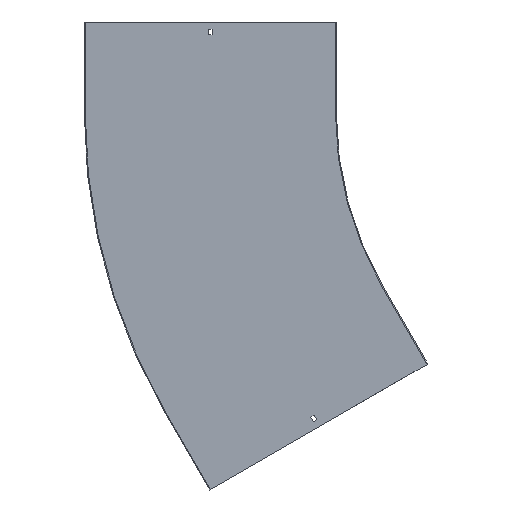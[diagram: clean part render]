
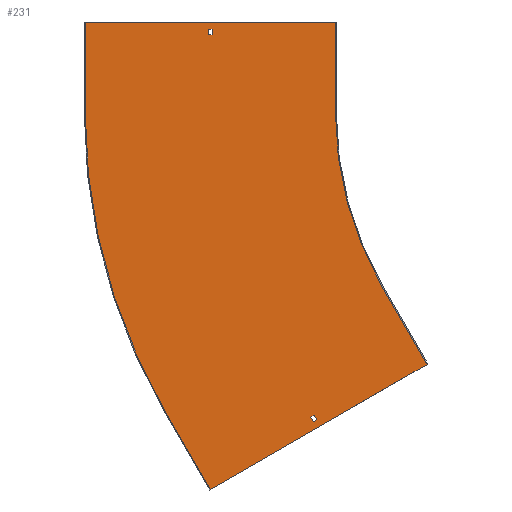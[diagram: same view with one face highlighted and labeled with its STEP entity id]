
A CAD part, front view. The second image highlights one B-rep face of the part: STEP entity #231.
In plain terms, the highlighted planar face has unit normal (0, -1, 0).
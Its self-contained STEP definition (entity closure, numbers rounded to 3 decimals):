
#1 = DIRECTION ( 'NONE',  ( 0., 0., -1. ) ) ;
#7 = LINE ( 'NONE', #609, #208 ) ;
#9 = ORIENTED_EDGE ( 'NONE', *, *, #75, .T. ) ;
#11 = DIRECTION ( 'NONE',  ( 0., 0., -1. ) ) ;
#18 = VECTOR ( 'NONE', #435, 1000. ) ;
#26 = CARTESIAN_POINT ( 'NONE',  ( -625.506, -1.5, -510.092 ) ) ;
#29 = VECTOR ( 'NONE', #811, 1000. ) ;
#33 = CARTESIAN_POINT ( 'NONE',  ( -690.006, -1.5, -398.375 ) ) ;
#61 = VERTEX_POINT ( 'NONE', #87 ) ;
#70 = DIRECTION ( 'NONE',  ( 0., 0., 1. ) ) ;
#72 = VECTOR ( 'NONE', #103, 1000. ) ;
#75 = EDGE_CURVE ( 'NONE', #781, #389, #265, .T. ) ;
#81 = CARTESIAN_POINT ( 'NONE',  ( -1010., -1.5, 0. ) ) ;
#87 = CARTESIAN_POINT ( 'NONE',  ( -874.686, -1.5, -505. ) ) ;
#88 = VECTOR ( 'NONE', #247, 1000. ) ;
#95 = VERTEX_POINT ( 'NONE', #354 ) ;
#97 = CARTESIAN_POINT ( 'NONE',  ( -631.135, -1.5, -513.342 ) ) ;
#98 = CIRCLE ( 'NONE', #583, 590. ) ;
#103 = DIRECTION ( 'NONE',  ( 0.5, 0., -0.866 ) ) ;
#104 = ORIENTED_EDGE ( 'NONE', *, *, #395, .F. ) ;
#107 = EDGE_CURVE ( 'NONE', #656, #573, #498, .T. ) ;
#114 = CARTESIAN_POINT ( 'NONE',  ( 0., -1.5, 0. ) ) ;
#117 = ORIENTED_EDGE ( 'NONE', *, *, #363, .F. ) ;
#120 = ORIENTED_EDGE ( 'NONE', *, *, #182, .F. ) ;
#122 = ORIENTED_EDGE ( 'NONE', *, *, #730, .F. ) ;
#127 = EDGE_CURVE ( 'NONE', #573, #781, #158, .T. ) ;
#155 = AXIS2_PLACEMENT_3D ( 'NONE', #114, #314, #714 ) ;
#158 = LINE ( 'NONE', #627, #833 ) ;
#166 = CARTESIAN_POINT ( 'NONE',  ( -626.635, -1.5, -521.137 ) ) ;
#167 = DIRECTION ( 'NONE',  ( -1., 0., 0. ) ) ;
#172 = ORIENTED_EDGE ( 'NONE', *, *, #710, .F. ) ;
#174 = CARTESIAN_POINT ( 'NONE',  ( -434.656, -1.5, -424.154 ) ) ;
#176 = VERTEX_POINT ( 'NONE', #97 ) ;
#178 = VECTOR ( 'NONE', #793, 1000. ) ;
#181 = EDGE_CURVE ( 'NONE', #240, #202, #501, .T. ) ;
#182 = EDGE_CURVE ( 'NONE', #838, #95, #563, .T. ) ;
#202 = VERTEX_POINT ( 'NONE', #26 ) ;
#205 = EDGE_LOOP ( 'NONE', ( #574, #239, #771, #104 ) ) ;
#208 = VECTOR ( 'NONE', #806, 1000. ) ;
#219 = VECTOR ( 'NONE', #297, 1000. ) ;
#226 = CARTESIAN_POINT ( 'NONE',  ( -1010., -1.5, 150. ) ) ;
#228 = CARTESIAN_POINT ( 'NONE',  ( -510.955, -1.5, -295. ) ) ;
#231 = ADVANCED_FACE ( 'NONE', ( #454, #253, #450 ), #396, .T. ) ;
#239 = ORIENTED_EDGE ( 'NONE', *, *, #843, .F. ) ;
#240 = VERTEX_POINT ( 'NONE', #567 ) ;
#247 = DIRECTION ( 'NONE',  ( -0.866, 0., -0.5 ) ) ;
#253 = FACE_OUTER_BOUND ( 'NONE', #455, .T. ) ;
#261 = VERTEX_POINT ( 'NONE', #384 ) ;
#262 = CARTESIAN_POINT ( 'NONE',  ( -510.955, -1.5, -295. ) ) ;
#265 = LINE ( 'NONE', #536, #276 ) ;
#266 = ORIENTED_EDGE ( 'NONE', *, *, #611, .F. ) ;
#268 = LINE ( 'NONE', #368, #601 ) ;
#276 = VECTOR ( 'NONE', #817, 1000. ) ;
#292 = LINE ( 'NONE', #492, #780 ) ;
#297 = DIRECTION ( 'NONE',  ( 0.5, 0., -0.866 ) ) ;
#304 = DIRECTION ( 'NONE',  ( 1., 0., 0. ) ) ;
#307 = EDGE_CURVE ( 'NONE', #389, #656, #768, .T. ) ;
#312 = ORIENTED_EDGE ( 'NONE', *, *, #803, .F. ) ;
#313 = CARTESIAN_POINT ( 'NONE',  ( -590., -1.5, 0. ) ) ;
#314 = DIRECTION ( 'NONE',  ( 0., -1., 0. ) ) ;
#319 = CARTESIAN_POINT ( 'NONE',  ( -796.75, -1.5, 129. ) ) ;
#354 = CARTESIAN_POINT ( 'NONE',  ( -435.955, -1.5, -424.904 ) ) ;
#363 = EDGE_CURVE ( 'NONE', #593, #648, #662, .T. ) ;
#368 = CARTESIAN_POINT ( 'NONE',  ( 69., -1.5, -119.512 ) ) ;
#384 = CARTESIAN_POINT ( 'NONE',  ( -799.686, -1.5, -634.904 ) ) ;
#387 = LINE ( 'NONE', #174, #88 ) ;
#389 = VERTEX_POINT ( 'NONE', #471 ) ;
#395 = EDGE_CURVE ( 'NONE', #202, #176, #404, .T. ) ;
#396 = PLANE ( 'NONE',  #155 ) ;
#404 = LINE ( 'NONE', #410, #178 ) ;
#410 = CARTESIAN_POINT ( 'NONE',  ( 64.5, -1.5, -111.717 ) ) ;
#414 = DIRECTION ( 'NONE',  ( 0., 1., 0. ) ) ;
#417 = LINE ( 'NONE', #810, #219 ) ;
#430 = DIRECTION ( 'NONE',  ( -0.5, 0., 0.866 ) ) ;
#435 = DIRECTION ( 'NONE',  ( 0., 0., -1. ) ) ;
#439 = CARTESIAN_POINT ( 'NONE',  ( 0., -1.5, 138. ) ) ;
#450 = FACE_BOUND ( 'NONE', #858, .T. ) ;
#454 = FACE_BOUND ( 'NONE', #205, .T. ) ;
#455 = EDGE_LOOP ( 'NONE', ( #469, #519, #312, #122, #266, #120, #172, #117 ) ) ;
#469 = ORIENTED_EDGE ( 'NONE', *, *, #508, .F. ) ;
#471 = CARTESIAN_POINT ( 'NONE',  ( -803.25, -1.5, 138. ) ) ;
#474 = CARTESIAN_POINT ( 'NONE',  ( -590., -1.5, 150. ) ) ;
#492 = CARTESIAN_POINT ( 'NONE',  ( -1011.5, -1.5, 150. ) ) ;
#498 = LINE ( 'NONE', #824, #18 ) ;
#501 = LINE ( 'NONE', #33, #597 ) ;
#503 = CIRCLE ( 'NONE', #752, 1010. ) ;
#508 = EDGE_CURVE ( 'NONE', #847, #593, #292, .T. ) ;
#511 = ORIENTED_EDGE ( 'NONE', *, *, #127, .T. ) ;
#519 = ORIENTED_EDGE ( 'NONE', *, *, #696, .F. ) ;
#536 = CARTESIAN_POINT ( 'NONE',  ( -803.25, -1.5, 0. ) ) ;
#541 = ORIENTED_EDGE ( 'NONE', *, *, #107, .T. ) ;
#563 = LINE ( 'NONE', #228, #72 ) ;
#567 = CARTESIAN_POINT ( 'NONE',  ( -621.006, -1.5, -517.887 ) ) ;
#573 = VERTEX_POINT ( 'NONE', #319 ) ;
#574 = ORIENTED_EDGE ( 'NONE', *, *, #181, .F. ) ;
#578 = VERTEX_POINT ( 'NONE', #166 ) ;
#583 = AXIS2_PLACEMENT_3D ( 'NONE', #606, #723, #11 ) ;
#593 = VERTEX_POINT ( 'NONE', #849 ) ;
#597 = VECTOR ( 'NONE', #430, 1000. ) ;
#601 = VECTOR ( 'NONE', #770, 1000. ) ;
#606 = CARTESIAN_POINT ( 'NONE',  ( 0., -1.5, 0. ) ) ;
#608 = ORIENTED_EDGE ( 'NONE', *, *, #307, .T. ) ;
#609 = CARTESIAN_POINT ( 'NONE',  ( -799.686, -1.5, -634.904 ) ) ;
#611 = EDGE_CURVE ( 'NONE', #95, #261, #387, .T. ) ;
#626 = VECTOR ( 'NONE', #70, 1000. ) ;
#627 = CARTESIAN_POINT ( 'NONE',  ( 0., -1.5, 129. ) ) ;
#648 = VERTEX_POINT ( 'NONE', #313 ) ;
#656 = VERTEX_POINT ( 'NONE', #718 ) ;
#662 = LINE ( 'NONE', #474, #29 ) ;
#670 = VERTEX_POINT ( 'NONE', #835 ) ;
#696 = EDGE_CURVE ( 'NONE', #670, #847, #743, .T. ) ;
#710 = EDGE_CURVE ( 'NONE', #648, #838, #98, .T. ) ;
#714 = DIRECTION ( 'NONE',  ( 0., 0., -1. ) ) ;
#718 = CARTESIAN_POINT ( 'NONE',  ( -796.75, -1.5, 138. ) ) ;
#723 = DIRECTION ( 'NONE',  ( 0., -1., 0. ) ) ;
#729 = CARTESIAN_POINT ( 'NONE',  ( -803.25, -1.5, 129. ) ) ;
#730 = EDGE_CURVE ( 'NONE', #261, #61, #7, .T. ) ;
#743 = LINE ( 'NONE', #81, #626 ) ;
#752 = AXIS2_PLACEMENT_3D ( 'NONE', #787, #414, #1 ) ;
#758 = DIRECTION ( 'NONE',  ( 1., 0., 0. ) ) ;
#761 = VECTOR ( 'NONE', #304, 1000. ) ;
#768 = LINE ( 'NONE', #439, #761 ) ;
#770 = DIRECTION ( 'NONE',  ( 0.866, 0., 0.5 ) ) ;
#771 = ORIENTED_EDGE ( 'NONE', *, *, #857, .F. ) ;
#780 = VECTOR ( 'NONE', #758, 1000. ) ;
#781 = VERTEX_POINT ( 'NONE', #729 ) ;
#787 = CARTESIAN_POINT ( 'NONE',  ( 0., -1.5, 0. ) ) ;
#793 = DIRECTION ( 'NONE',  ( -0.866, 0., -0.5 ) ) ;
#803 = EDGE_CURVE ( 'NONE', #61, #670, #503, .T. ) ;
#806 = DIRECTION ( 'NONE',  ( -0.5, 0., 0.866 ) ) ;
#810 = CARTESIAN_POINT ( 'NONE',  ( -695.635, -1.5, -401.625 ) ) ;
#811 = DIRECTION ( 'NONE',  ( 0., 0., -1. ) ) ;
#817 = DIRECTION ( 'NONE',  ( 0., 0., 1. ) ) ;
#824 = CARTESIAN_POINT ( 'NONE',  ( -796.75, -1.5, 0. ) ) ;
#833 = VECTOR ( 'NONE', #167, 1000. ) ;
#835 = CARTESIAN_POINT ( 'NONE',  ( -1010., -1.5, 0. ) ) ;
#838 = VERTEX_POINT ( 'NONE', #262 ) ;
#843 = EDGE_CURVE ( 'NONE', #578, #240, #268, .T. ) ;
#847 = VERTEX_POINT ( 'NONE', #226 ) ;
#849 = CARTESIAN_POINT ( 'NONE',  ( -590., -1.5, 150. ) ) ;
#857 = EDGE_CURVE ( 'NONE', #176, #578, #417, .T. ) ;
#858 = EDGE_LOOP ( 'NONE', ( #608, #541, #511, #9 ) ) ;
